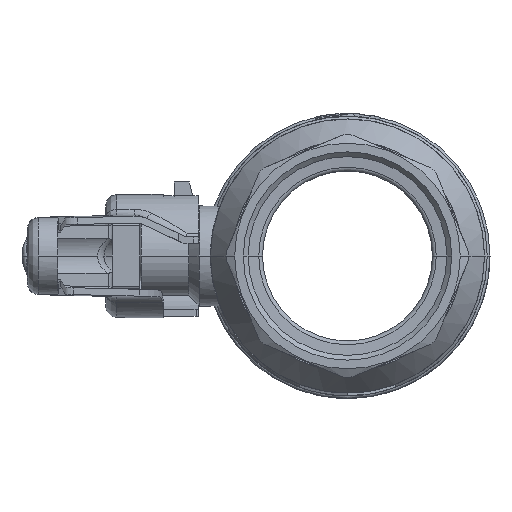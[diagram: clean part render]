
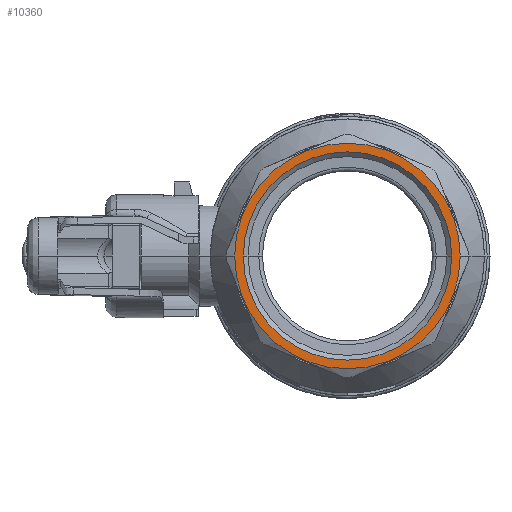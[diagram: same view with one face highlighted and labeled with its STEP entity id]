
A CAD part, left-side view. The second image highlights one B-rep face of the part: STEP entity #10360.
In plain terms, the highlighted planar face has unit normal (-1, 0, 0).
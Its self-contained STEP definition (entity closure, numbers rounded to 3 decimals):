
#9880=CARTESIAN_POINT('',(-64.75,-38.,
0.));
#9890=VERTEX_POINT('',#9880);
#9970=CARTESIAN_POINT('',(-64.75,38.,0.));
#9980=VERTEX_POINT('',#9970);
#10010=CARTESIAN_POINT('',(-64.75,0.,0.));
#10020=DIRECTION('',(1.,0.,0.));
#10030=DIRECTION('',(0.,-1.,0.));
#10040=AXIS2_PLACEMENT_3D('',#10010,#10020,#10030);
#10050=CIRCLE('',#10040,38.);
#10060=EDGE_CURVE('',#9980,#9890,#10050,.T.);
#10110=CARTESIAN_POINT('',(-64.75,-39.575,0.));
#10120=DIRECTION('',(-1.,0.,0.));
#10130=DIRECTION('',(0.,1.,0.));
#10140=AXIS2_PLACEMENT_3D('',#10110,#10120,#10130);
#10150=PLANE('',#10140);
#10160=CARTESIAN_POINT('',(-64.75,0.,0.));
#10170=DIRECTION('',(1.,0.,0.));
#10180=DIRECTION('',(0.,-1.,0.));
#10190=AXIS2_PLACEMENT_3D('',#10160,#10170,#10180);
#10200=CIRCLE('',#10190,41.15);
#10210=CARTESIAN_POINT('',(-64.75,-41.15,0.));
#10220=VERTEX_POINT('',#10210);
#10230=CARTESIAN_POINT('',(-64.75,41.15,
0.));
#10240=VERTEX_POINT('',#10230);
#10250=EDGE_CURVE('',#10220,#10240,#10200,.T.);
#10260=ORIENTED_EDGE('',*,*,#10250,.F.);
#10270=EDGE_CURVE('',#10240,#10220,#10200,.T.);
#10280=ORIENTED_EDGE('',*,*,#10270,.F.);
#10290=EDGE_LOOP('',(#10280,#10260));
#10300=FACE_OUTER_BOUND('',#10290,.T.);
#10310=EDGE_CURVE('',#9890,#9980,#10050,.T.);
#10320=ORIENTED_EDGE('',*,*,#10310,.T.);
#10330=ORIENTED_EDGE('',*,*,#10060,.T.);
#10340=EDGE_LOOP('',(#10330,#10320));
#10350=FACE_BOUND('',#10340,.T.);
#10360=ADVANCED_FACE('',(#10300,#10350),#10150,.T.);
